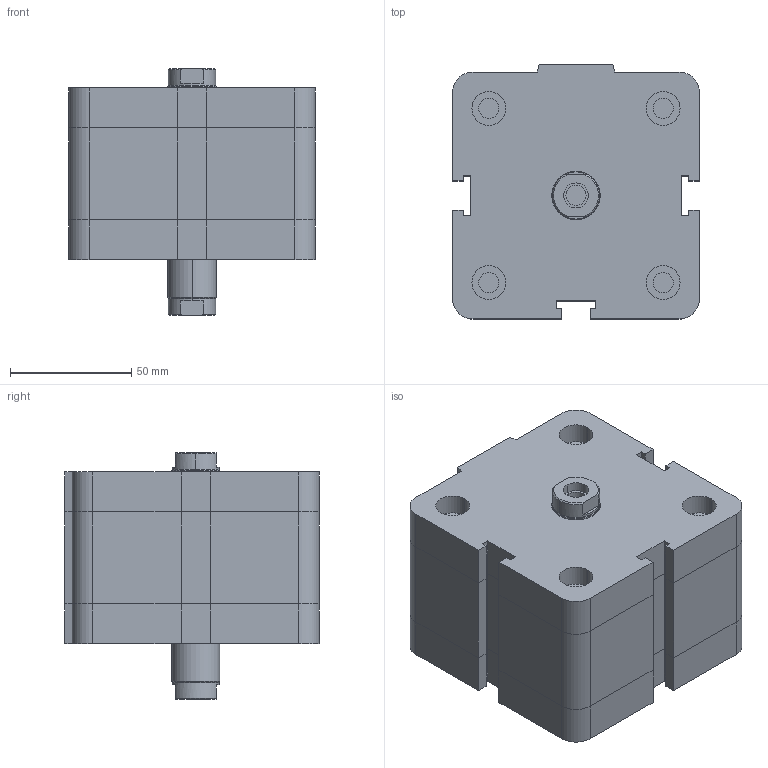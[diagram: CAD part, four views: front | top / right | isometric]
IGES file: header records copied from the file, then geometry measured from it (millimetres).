
Global section: file name: No Iges File Name specified; native system: Autodesk Inventor 2009; preprocessor: AutoDesk Inventor Iges Exporter R2009; author: maffial1; date: 20090420.200428; units: millimetre
Bounding box: 102 x 105 x 102 mm (x, y, z)
Volume: 708394.7 mm3; surface area: 71754.9 mm2
Topology: 2 solids, 2 shells, 202 faces, 450 edges, 274 vertices
Faces by surface type: plane 114, bspline 42, revolution 20, cylinder 18, cone 8
